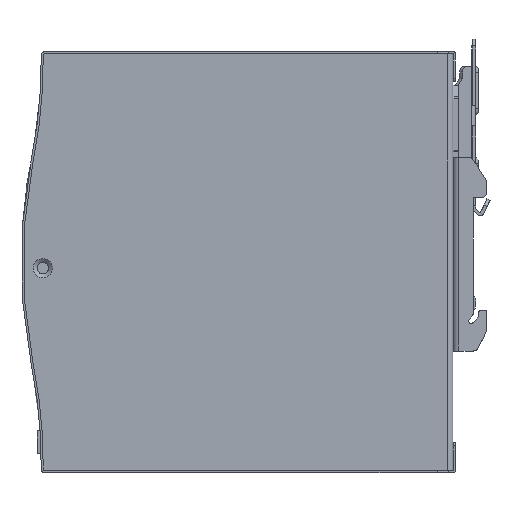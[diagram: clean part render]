
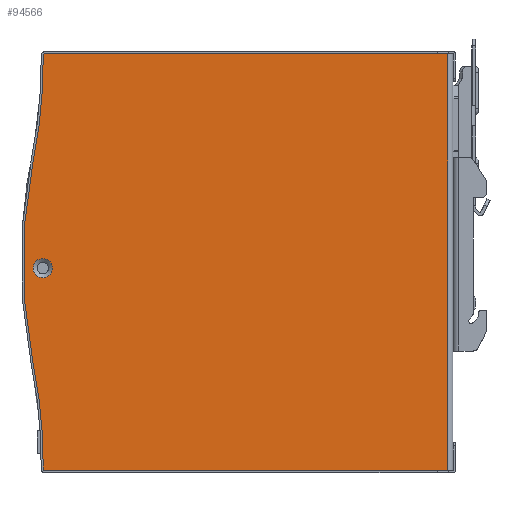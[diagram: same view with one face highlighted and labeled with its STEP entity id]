
A CAD part, front view. The second image highlights one B-rep face of the part: STEP entity #94566.
In plain terms, the highlighted planar face has unit normal (0, -1, 0).
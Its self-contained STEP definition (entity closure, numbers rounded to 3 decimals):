
#94406=CARTESIAN_POINT('',(95.953,13.236,74.0));
#94407=VERTEX_POINT('',#94406);
#94415=CARTESIAN_POINT('',(95.953,13.236,-50.0));
#94416=VERTEX_POINT('',#94415);
#94417=CARTESIAN_POINT('',(95.953,13.236,74.0));
#94418=DIRECTION('',(0.0,0.0,-1.0));
#94419=VECTOR('',#94418,124.0);
#94420=LINE('',#94417,#94419);
#94421=EDGE_CURVE('',#94407,#94416,#94420,.T.);
#94488=CARTESIAN_POINT('',(-13.667,13.236,0.0));
#94489=DIRECTION('',(0.0,-1.0,0.0));
#94490=DIRECTION('',(0.0,0.0,-1.0));
#94491=AXIS2_PLACEMENT_3D('',#94488,#94489,#94490);
#94492=PLANE('',#94491);
#94493=CARTESIAN_POINT('',(-23.789,13.236,-50.));
#94494=VERTEX_POINT('',#94493);
#94495=CARTESIAN_POINT('',(-23.789,13.236,-50.0));
#94496=DIRECTION('',(1.0,0.0,0.0));
#94497=VECTOR('',#94496,119.742);
#94498=LINE('',#94495,#94497);
#94499=EDGE_CURVE('',#94494,#94416,#94498,.T.);
#94500=ORIENTED_EDGE('',*,*,#94499,.T.);
#94501=ORIENTED_EDGE('',*,*,#94421,.F.);
#94502=CARTESIAN_POINT('',(-23.789,13.236,74.));
#94503=VERTEX_POINT('',#94502);
#94504=CARTESIAN_POINT('',(-23.789,13.236,74.0));
#94505=DIRECTION('',(1.0,0.0,0.0));
#94506=VECTOR('',#94505,119.742);
#94507=LINE('',#94504,#94506);
#94508=EDGE_CURVE('',#94503,#94407,#94507,.T.);
#94509=ORIENTED_EDGE('',*,*,#94508,.F.);
#94510=CARTESIAN_POINT('',(-24.289,13.236,73.495));
#94511=VERTEX_POINT('',#94510);
#94512=CARTESIAN_POINT('',(-23.789,13.236,73.5));
#94513=DIRECTION('',(0.0,-1.0,0.0));
#94514=DIRECTION('',(-1.0,0.0,0.0));
#94515=AXIS2_PLACEMENT_3D('',#94512,#94513,#94514);
#94516=CIRCLE('',#94515,0.5);
#94517=EDGE_CURVE('',#94503,#94511,#94516,.T.);
#94518=ORIENTED_EDGE('',*,*,#94517,.T.);
#94519=CARTESIAN_POINT('',(-27.314,13.236,42.01));
#94520=VERTEX_POINT('',#94519);
#94521=CARTESIAN_POINT('',(-174.282,13.236,72.019));
#94522=DIRECTION('',(0.0,-1.0,0.0));
#94523=DIRECTION('',(0.0,0.0,-1.0));
#94524=AXIS2_PLACEMENT_3D('',#94521,#94522,#94523);
#94525=CIRCLE('',#94524,150.);
#94526=EDGE_CURVE('',#94520,#94511,#94525,.T.);
#94527=ORIENTED_EDGE('',*,*,#94526,.F.);
#94528=CARTESIAN_POINT('',(-27.314,13.236,-18.01));
#94529=VERTEX_POINT('',#94528);
#94530=CARTESIAN_POINT('',(119.653,13.236,12.));
#94531=DIRECTION('',(0.0,-1.0,0.0));
#94532=DIRECTION('',(0.0,0.0,-1.0));
#94533=AXIS2_PLACEMENT_3D('',#94530,#94531,#94532);
#94534=CIRCLE('',#94533,150.);
#94535=EDGE_CURVE('',#94520,#94529,#94534,.T.);
#94536=ORIENTED_EDGE('',*,*,#94535,.T.);
#94537=CARTESIAN_POINT('',(-24.289,13.236,-49.495));
#94538=VERTEX_POINT('',#94537);
#94539=CARTESIAN_POINT('',(-174.282,13.236,-48.019));
#94540=DIRECTION('',(0.0,-1.0,0.0));
#94541=DIRECTION('',(0.0,0.0,-1.0));
#94542=AXIS2_PLACEMENT_3D('',#94539,#94540,#94541);
#94543=CIRCLE('',#94542,150.);
#94544=EDGE_CURVE('',#94538,#94529,#94543,.T.);
#94545=ORIENTED_EDGE('',*,*,#94544,.F.);
#94546=CARTESIAN_POINT('',(-23.789,13.236,-49.5));
#94547=DIRECTION('',(0.0,-1.0,0.0));
#94548=DIRECTION('',(-1.0,0.0,0.0));
#94549=AXIS2_PLACEMENT_3D('',#94546,#94547,#94548);
#94550=CIRCLE('',#94549,0.5);
#94551=EDGE_CURVE('',#94538,#94494,#94550,.T.);
#94552=ORIENTED_EDGE('',*,*,#94551,.T.);
#94553=EDGE_LOOP('',(#94500,#94501,#94509,#94518,#94527,#94536,#94545,#94552));
#94554=FACE_OUTER_BOUND('',#94553,.T.);
#94555=CARTESIAN_POINT('',(-21.597,13.236,10.25));
#94556=VERTEX_POINT('',#94555);
#94557=CARTESIAN_POINT('',(-24.447,13.236,10.25));
#94558=DIRECTION('',(0.0,-1.0,0.0));
#94559=DIRECTION('',(1.0,0.0,0.0));
#94560=AXIS2_PLACEMENT_3D('',#94557,#94558,#94559);
#94561=CIRCLE('',#94560,2.85);
#94562=EDGE_CURVE('',#94556,#94556,#94561,.T.);
#94563=ORIENTED_EDGE('',*,*,#94562,.F.);
#94564=EDGE_LOOP('',(#94563));
#94565=FACE_BOUND('',#94564,.T.);
#94566=ADVANCED_FACE('',(#94554,#94565),#94492,.T.);
